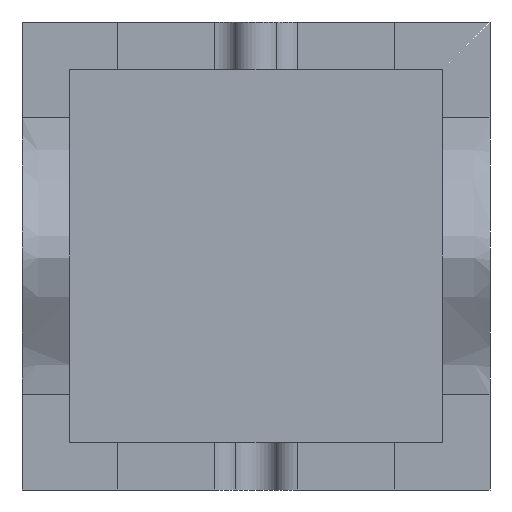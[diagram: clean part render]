
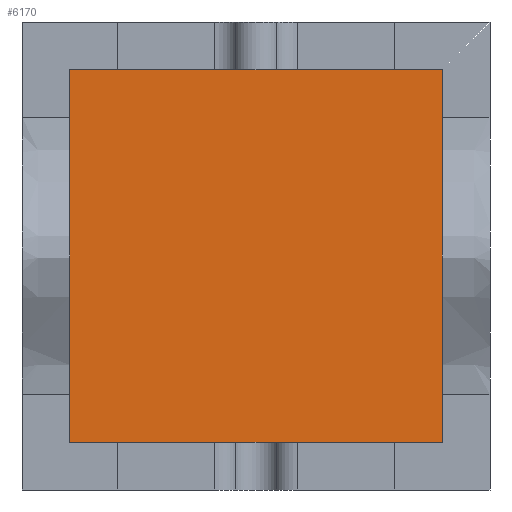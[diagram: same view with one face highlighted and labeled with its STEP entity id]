
A CAD part, front view. The second image highlights one B-rep face of the part: STEP entity #6170.
In plain terms, the highlighted planar face has unit normal (0, -1, 0).
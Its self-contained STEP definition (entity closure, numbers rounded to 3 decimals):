
#6044=CARTESIAN_POINT('Vertex',(-20.,-30.,-20.)) ;
#6049=CARTESIAN_POINT('Line Origine',(-20.,-30.,58.5)) ;
#6053=CARTESIAN_POINT('Vertex',(-20.,-30.,137.)) ;
#6080=CARTESIAN_POINT('Line Origine',(58.5,-30.,137.)) ;
#6084=CARTESIAN_POINT('Vertex',(137.,-30.,137.)) ;
#6111=CARTESIAN_POINT('Line Origine',(137.,-30.,58.5)) ;
#6115=CARTESIAN_POINT('Vertex',(137.,-30.,-20.)) ;
#6142=CARTESIAN_POINT('Line Origine',(58.5,-30.,-20.)) ;
#6159=CARTESIAN_POINT('Axis2P3D Location',(0.,-30.,0.)) ;
#6050=DIRECTION('Vector Direction',(0.,0.,-1.)) ;
#6081=DIRECTION('Vector Direction',(1.,0.,0.)) ;
#6112=DIRECTION('Vector Direction',(0.,0.,1.)) ;
#6143=DIRECTION('Vector Direction',(-1.,0.,0.)) ;
#6160=DIRECTION('Axis2P3D Direction',(0.,1.,0.)) ;
#6161=DIRECTION('Axis2P3D XDirection',(-1.,0.,0.)) ;
#6162=AXIS2_PLACEMENT_3D('Plane Axis2P3D',#6159,#6160,#6161) ;
#6165=ORIENTED_EDGE('',*,*,#6146,.F.) ;
#6166=ORIENTED_EDGE('',*,*,#6117,.F.) ;
#6167=ORIENTED_EDGE('',*,*,#6086,.F.) ;
#6168=ORIENTED_EDGE('',*,*,#6055,.F.) ;
#6051=VECTOR('Line Direction',#6050,1.) ;
#6082=VECTOR('Line Direction',#6081,1.) ;
#6113=VECTOR('Line Direction',#6112,1.) ;
#6144=VECTOR('Line Direction',#6143,1.) ;
#6170=ADVANCED_FACE('Cavity-molde',(#6169),#6163,.F.) ;
#6055=EDGE_CURVE('',#6045,#6054,#6052,.F.) ;
#6086=EDGE_CURVE('',#6054,#6085,#6083,.T.) ;
#6117=EDGE_CURVE('',#6085,#6116,#6114,.F.) ;
#6146=EDGE_CURVE('',#6116,#6045,#6145,.T.) ;
#6164=EDGE_LOOP('',(#6165,#6166,#6167,#6168)) ;
#6169=FACE_OUTER_BOUND('',#6164,.T.) ;
#6052=LINE('Line',#6049,#6051) ;
#6083=LINE('Line',#6080,#6082) ;
#6114=LINE('Line',#6111,#6113) ;
#6145=LINE('Line',#6142,#6144) ;
#6163=PLANE('',#6162) ;
#6045=VERTEX_POINT('',#6044) ;
#6054=VERTEX_POINT('',#6053) ;
#6085=VERTEX_POINT('',#6084) ;
#6116=VERTEX_POINT('',#6115) ;
